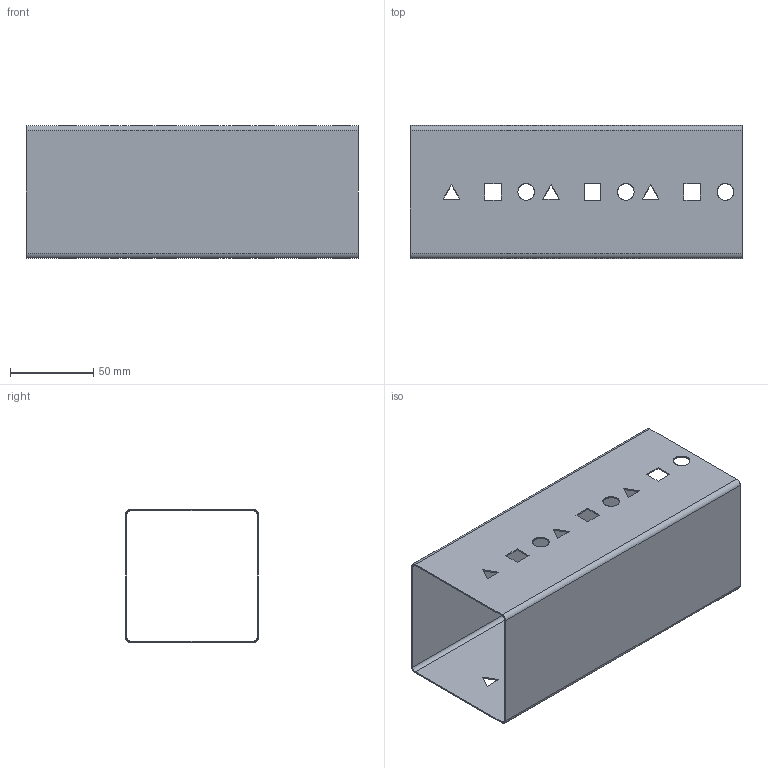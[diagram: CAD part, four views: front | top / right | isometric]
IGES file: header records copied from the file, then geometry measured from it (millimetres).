
Start section: SolidWorks IGES file using analytic representation for surfaces
Bounding box: 200 x 80 x 80 mm (x, y, z)
Surface area: 123258.9 mm2 (no closed solid volume)
Topology: 0 solids, 0 shells, 72 faces, 892 edges, 892 vertices
Faces by surface type: bspline 52, revolution 20
